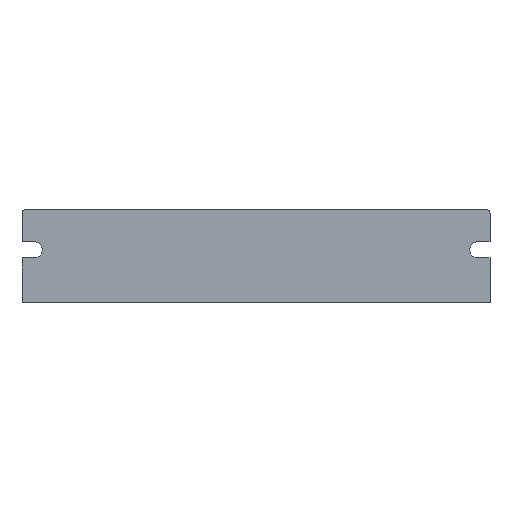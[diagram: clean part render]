
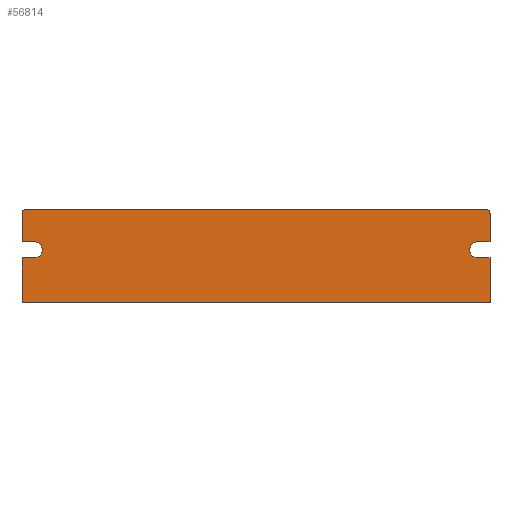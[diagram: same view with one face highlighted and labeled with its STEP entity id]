
A CAD part, front view. The second image highlights one B-rep face of the part: STEP entity #56814.
In plain terms, the highlighted planar face has unit normal (0, -1, 0).
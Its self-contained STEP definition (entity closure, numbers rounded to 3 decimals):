
#2422 = CARTESIAN_POINT ( 'NONE',  ( 3.5, 0., 15. ) ) ;
#3152 = DIRECTION ( 'NONE',  ( 1., 0., 0. ) ) ;
#3399 = EDGE_CURVE ( 'NONE', #4299, #48912, #13758, .T. ) ;
#3625 = VECTOR ( 'NONE', #32244, 1000. ) ;
#4299 = VERTEX_POINT ( 'NONE', #67654 ) ;
#4407 = DIRECTION ( 'NONE',  ( 0., 1., 0. ) ) ;
#4775 = LINE ( 'NONE', #76680, #84426 ) ;
#5629 = FACE_OUTER_BOUND ( 'NONE', #64858, .T. ) ;
#6487 = ORIENTED_EDGE ( 'NONE', *, *, #64854, .T. ) ;
#7574 = LINE ( 'NONE', #95631, #66708 ) ;
#9158 = CARTESIAN_POINT ( 'NONE',  ( 3.5, 0., 12.7 ) ) ;
#9383 = DIRECTION ( 'NONE',  ( 1., 0., 0. ) ) ;
#9748 = CARTESIAN_POINT ( 'NONE',  ( 1., 0., 25.5 ) ) ;
#10187 = DIRECTION ( 'NONE',  ( -1., 0., 0. ) ) ;
#10828 = CARTESIAN_POINT ( 'NONE',  ( 1., 0., 26.5 ) ) ;
#11838 = CARTESIAN_POINT ( 'NONE',  ( 0., 0., 26.5 ) ) ;
#12936 = CARTESIAN_POINT ( 'NONE',  ( 0., 0., 25.5 ) ) ;
#13680 = DIRECTION ( 'NONE',  ( 0., 0., -1. ) ) ;
#13758 = CIRCLE ( 'NONE', #41657, 2.3 ) ;
#14110 = CARTESIAN_POINT ( 'NONE',  ( 133., 0., 25.5 ) ) ;
#15894 = ORIENTED_EDGE ( 'NONE', *, *, #80655, .T. ) ;
#16275 = ORIENTED_EDGE ( 'NONE', *, *, #55251, .T. ) ;
#16784 = CARTESIAN_POINT ( 'NONE',  ( 134., 0., 26.5 ) ) ;
#16944 = DIRECTION ( 'NONE',  ( -1., 0., 0. ) ) ;
#17507 = DIRECTION ( 'NONE',  ( 0., 0., 1. ) ) ;
#18021 = CARTESIAN_POINT ( 'NONE',  ( 0., 0., 17.3 ) ) ;
#18478 = CARTESIAN_POINT ( 'NONE',  ( 133., 0., 26.5 ) ) ;
#20377 = DIRECTION ( 'NONE',  ( 0., 1., 0. ) ) ;
#21412 = AXIS2_PLACEMENT_3D ( 'NONE', #66554, #20377, #74332 ) ;
#21846 = DIRECTION ( 'NONE',  ( 0., 0., 1. ) ) ;
#22703 = DIRECTION ( 'NONE',  ( 0., 0., -1. ) ) ;
#23904 = VERTEX_POINT ( 'NONE', #39479 ) ;
#24506 = CARTESIAN_POINT ( 'NONE',  ( 0., 0., 26.5 ) ) ;
#25042 = VERTEX_POINT ( 'NONE', #85501 ) ;
#25083 = CARTESIAN_POINT ( 'NONE',  ( 134., 0., 0. ) ) ;
#26700 = ORIENTED_EDGE ( 'NONE', *, *, #72108, .T. ) ;
#30245 = EDGE_CURVE ( 'NONE', #61749, #89194, #85587, .T. ) ;
#31929 = CIRCLE ( 'NONE', #93363, 1. ) ;
#32224 = VECTOR ( 'NONE', #13680, 1000. ) ;
#32244 = DIRECTION ( 'NONE',  ( 0., 0., -1. ) ) ;
#33455 = VECTOR ( 'NONE', #16944, 1000. ) ;
#34414 = CARTESIAN_POINT ( 'NONE',  ( 130.5, 0., 17.3 ) ) ;
#34646 = LINE ( 'NONE', #91065, #32224 ) ;
#36080 = VECTOR ( 'NONE', #56781, 1000. ) ;
#37838 = ORIENTED_EDGE ( 'NONE', *, *, #30245, .T. ) ;
#38782 = LINE ( 'NONE', #24506, #97990 ) ;
#39366 = LINE ( 'NONE', #34414, #98546 ) ;
#39479 = CARTESIAN_POINT ( 'NONE',  ( 134., 0., 17.3 ) ) ;
#40142 = EDGE_CURVE ( 'NONE', #63196, #25042, #82726, .T. ) ;
#40430 = AXIS2_PLACEMENT_3D ( 'NONE', #44871, #98918, #52620 ) ;
#40698 = LINE ( 'NONE', #64133, #99872 ) ;
#41657 = AXIS2_PLACEMENT_3D ( 'NONE', #2422, #56384, #10187 ) ;
#44871 = CARTESIAN_POINT ( 'NONE',  ( 130.5, 0., 15. ) ) ;
#45353 = CARTESIAN_POINT ( 'NONE',  ( 0., 0., 17.3 ) ) ;
#45504 = CIRCLE ( 'NONE', #21412, 2.3 ) ;
#47665 = EDGE_CURVE ( 'NONE', #97230, #83421, #38782, .T. ) ;
#48448 = CARTESIAN_POINT ( 'NONE',  ( 0., 0., 12.7 ) ) ;
#48912 = VERTEX_POINT ( 'NONE', #95151 ) ;
#50199 = ORIENTED_EDGE ( 'NONE', *, *, #69265, .F. ) ;
#50280 = ORIENTED_EDGE ( 'NONE', *, *, #47665, .T. ) ;
#50784 = VERTEX_POINT ( 'NONE', #70883 ) ;
#51172 = AXIS2_PLACEMENT_3D ( 'NONE', #11838, #4407, #58339 ) ;
#51673 = CARTESIAN_POINT ( 'NONE',  ( 128.2, 0., 15. ) ) ;
#52570 = ORIENTED_EDGE ( 'NONE', *, *, #3399, .T. ) ;
#52620 = DIRECTION ( 'NONE',  ( -1., 0., 0. ) ) ;
#55251 = EDGE_CURVE ( 'NONE', #86233, #57671, #4775, .T. ) ;
#55542 = DIRECTION ( 'NONE',  ( 0., 0., -1. ) ) ;
#55800 = EDGE_CURVE ( 'NONE', #60336, #80626, #34646, .T. ) ;
#56384 = DIRECTION ( 'NONE',  ( 0., 1., 0. ) ) ;
#56633 = VECTOR ( 'NONE', #9383, 1000. ) ;
#56781 = DIRECTION ( 'NONE',  ( 1., 0., 0. ) ) ;
#56814 = ADVANCED_FACE ( 'NONE', ( #5629 ), #81325, .F. ) ;
#57671 = VERTEX_POINT ( 'NONE', #45353 ) ;
#58339 = DIRECTION ( 'NONE',  ( 0., 0., 1. ) ) ;
#60336 = VERTEX_POINT ( 'NONE', #94480 ) ;
#61749 = VERTEX_POINT ( 'NONE', #86391 ) ;
#62261 = AXIS2_PLACEMENT_3D ( 'NONE', #14110, #68049, #21846 ) ;
#62264 = ORIENTED_EDGE ( 'NONE', *, *, #95665, .T. ) ;
#63196 = VERTEX_POINT ( 'NONE', #51673 ) ;
#63251 = ORIENTED_EDGE ( 'NONE', *, *, #55800, .F. ) ;
#63353 = CARTESIAN_POINT ( 'NONE',  ( 0., 0., 0. ) ) ;
#63688 = DIRECTION ( 'NONE',  ( 0., -1., 0. ) ) ;
#64133 = CARTESIAN_POINT ( 'NONE',  ( 130.5, 0., 12.7 ) ) ;
#64854 = EDGE_CURVE ( 'NONE', #83421, #80626, #97741, .T. ) ;
#64858 = EDGE_LOOP ( 'NONE', ( #50199, #37838, #82467, #78045, #16275, #15894, #52570, #90825, #50280, #6487, #63251, #79362, #62264, #89891, #26700 ) ) ;
#65308 = CARTESIAN_POINT ( 'NONE',  ( 0., 0., 0. ) ) ;
#66103 = EDGE_CURVE ( 'NONE', #60336, #50784, #40698, .T. ) ;
#66554 = CARTESIAN_POINT ( 'NONE',  ( 130.5, 0., 15. ) ) ;
#66708 = VECTOR ( 'NONE', #3152, 1000. ) ;
#67572 = LINE ( 'NONE', #16784, #3625 ) ;
#67654 = CARTESIAN_POINT ( 'NONE',  ( 3.5, 0., 17.3 ) ) ;
#68049 = DIRECTION ( 'NONE',  ( 0., -1., 0. ) ) ;
#69265 = EDGE_CURVE ( 'NONE', #61749, #23904, #67572, .T. ) ;
#70883 = CARTESIAN_POINT ( 'NONE',  ( 130.5, 0., 12.7 ) ) ;
#72108 = EDGE_CURVE ( 'NONE', #25042, #23904, #39366, .T. ) ;
#73534 = DIRECTION ( 'NONE',  ( 1., 0., 0. ) ) ;
#74332 = DIRECTION ( 'NONE',  ( -1., 0., 0. ) ) ;
#76680 = CARTESIAN_POINT ( 'NONE',  ( 0., 0., 26.5 ) ) ;
#78045 = ORIENTED_EDGE ( 'NONE', *, *, #99025, .T. ) ;
#79314 = EDGE_CURVE ( 'NONE', #48912, #97230, #95047, .T. ) ;
#79362 = ORIENTED_EDGE ( 'NONE', *, *, #66103, .T. ) ;
#80025 = DIRECTION ( 'NONE',  ( -1., 0., 0. ) ) ;
#80626 = VERTEX_POINT ( 'NONE', #25083 ) ;
#80655 = EDGE_CURVE ( 'NONE', #57671, #4299, #97713, .T. ) ;
#81325 = PLANE ( 'NONE',  #51172 ) ;
#82467 = ORIENTED_EDGE ( 'NONE', *, *, #98018, .F. ) ;
#82726 = CIRCLE ( 'NONE', #40430, 2.3 ) ;
#83421 = VERTEX_POINT ( 'NONE', #65308 ) ;
#84426 = VECTOR ( 'NONE', #22703, 1000. ) ;
#85501 = CARTESIAN_POINT ( 'NONE',  ( 130.5, 0., 17.3 ) ) ;
#85587 = CIRCLE ( 'NONE', #62261, 1. ) ;
#86233 = VERTEX_POINT ( 'NONE', #12936 ) ;
#86391 = CARTESIAN_POINT ( 'NONE',  ( 134., 0., 25.5 ) ) ;
#86772 = VERTEX_POINT ( 'NONE', #10828 ) ;
#89194 = VERTEX_POINT ( 'NONE', #18478 ) ;
#89891 = ORIENTED_EDGE ( 'NONE', *, *, #40142, .T. ) ;
#90825 = ORIENTED_EDGE ( 'NONE', *, *, #79314, .T. ) ;
#91065 = CARTESIAN_POINT ( 'NONE',  ( 134., 0., 26.5 ) ) ;
#93363 = AXIS2_PLACEMENT_3D ( 'NONE', #9748, #63688, #17507 ) ;
#94480 = CARTESIAN_POINT ( 'NONE',  ( 134., 0., 12.7 ) ) ;
#95047 = LINE ( 'NONE', #9158, #33455 ) ;
#95151 = CARTESIAN_POINT ( 'NONE',  ( 3.5, 0., 12.7 ) ) ;
#95631 = CARTESIAN_POINT ( 'NONE',  ( 0., 0., 26.5 ) ) ;
#95665 = EDGE_CURVE ( 'NONE', #50784, #63196, #45504, .T. ) ;
#97230 = VERTEX_POINT ( 'NONE', #48448 ) ;
#97713 = LINE ( 'NONE', #18021, #36080 ) ;
#97741 = LINE ( 'NONE', #63353, #56633 ) ;
#97990 = VECTOR ( 'NONE', #55542, 1000. ) ;
#98018 = EDGE_CURVE ( 'NONE', #86772, #89194, #7574, .T. ) ;
#98546 = VECTOR ( 'NONE', #73534, 1000. ) ;
#98918 = DIRECTION ( 'NONE',  ( 0., 1., 0. ) ) ;
#99025 = EDGE_CURVE ( 'NONE', #86772, #86233, #31929, .T. ) ;
#99872 = VECTOR ( 'NONE', #80025, 1000. ) ;
